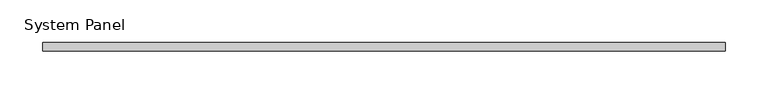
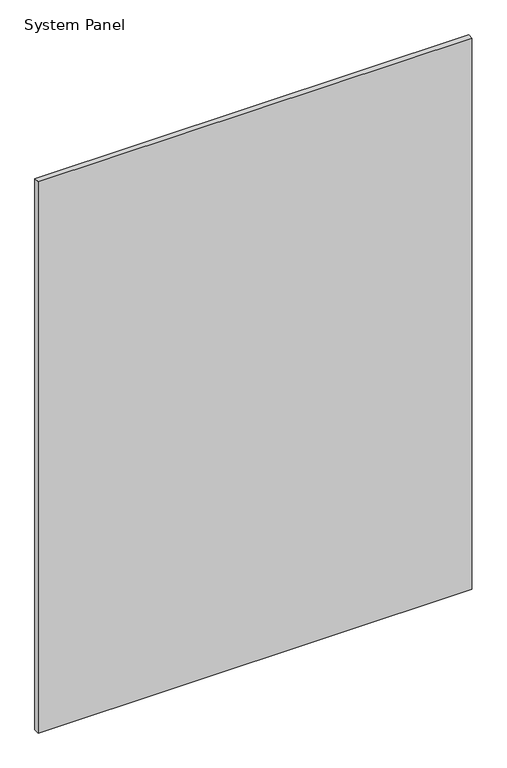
"""IFC4 building model written with IfcOpenShell, lengths in millimetres: plate geometry, System Panel : стекло_смещение_20."""

from ifc_helpers import new_model, si_unit, origin, origin_with_axes, place, context, project, spatial, polyline, outline, extrude, source, transform, mapped, element, save


def system_panel_8f234cf0(model_context):
    return source(origin(), model_context, "Body", "SweptSolid", [
        extrude(outline(polyline([(400.0, 15.0), (-400.0, 15.0), (-400.0, 25.0), (400.0, 25.0), (400.0, 15.0)])), origin_with_axes(), (0.0, 0.0, 1.0), 1075.0),
    ])


if __name__ == "__main__":
    model = new_model("IFC4")
    model_context = context("Model", 3, world=origin())
    ifc_project = project(units=[si_unit("LENGTHUNIT", "METRE", prefix="MILLI")], contexts=[model_context])
    site = spatial("IfcSite", under=ifc_project)
    building = spatial("IfcBuilding", under=site)
    placement = place(None, origin())
    system_panel_shape = system_panel_8f234cf0(model_context)
    element("IfcPlate", 1, ObjectType="System Panel : стекло_смещение_20", at=placement, inside=building, context=model_context, shape_type="MappedRepresentation", body=[
        mapped(system_panel_shape, transform((0.0, 0.0, 0.0), x_axis=(1.0, 0.0, 0.0), y_axis=(0.0, 1.0, 0.0), z_axis=(0.0, 0.0, 1.0))),
    ])
    save(model, "model.ifc")
